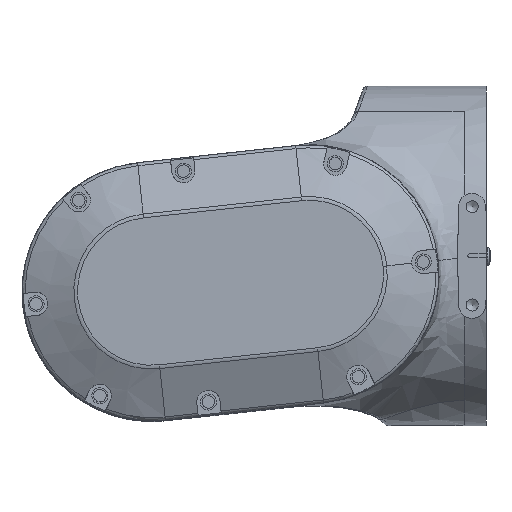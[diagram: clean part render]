
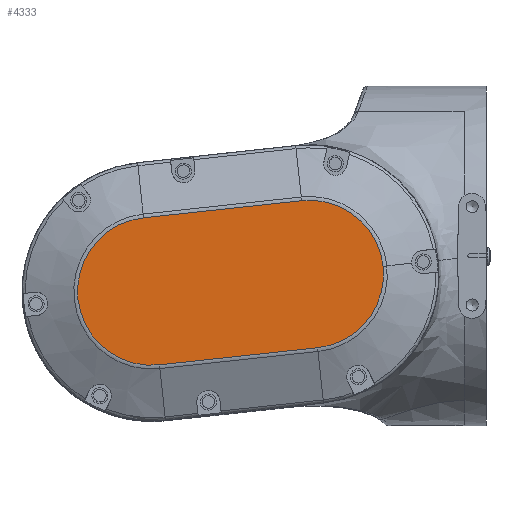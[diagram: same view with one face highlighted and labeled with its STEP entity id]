
A CAD part, top view. The second image highlights one B-rep face of the part: STEP entity #4333.
In plain terms, the highlighted planar face has unit normal (0, 0, 1) as drawn and (0, 1, 0) by its records, which use the part's own axes.
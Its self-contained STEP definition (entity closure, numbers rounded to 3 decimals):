
#20 = CARTESIAN_POINT ( 'NONE',  ( -30.719, 130.99, 310.949 ) ) ;
#26 = VECTOR ( 'NONE', #13561, 1000. ) ;
#165 = CARTESIAN_POINT ( 'NONE',  ( 10.432, 130.99, 306.5 ) ) ;
#289 = DIRECTION ( 'NONE',  ( 0., 1., 0. ) ) ;
#1775 = DIRECTION ( 'NONE',  ( -0.977, 0., 0.214 ) ) ;
#2949 = CARTESIAN_POINT ( 'NONE',  ( -21.151, 130.99, 399.449 ) ) ;
#3055 = DIRECTION ( 'NONE',  ( 0., 1., 0. ) ) ;
#3561 = DIRECTION ( 'NONE',  ( 0., 1., 0. ) ) ;
#3632 = AXIS2_PLACEMENT_3D ( 'NONE', #11240, #3561, #1775 ) ;
#4333 = ADVANCED_FACE ( 'NONE', ( #23195 ), #13395, .T. ) ;
#4478 = EDGE_CURVE ( 'NONE', #23398, #19973, #18297, .T. ) ;
#5454 = LINE ( 'NONE', #24712, #23364 ) ;
#5508 = CARTESIAN_POINT ( 'NONE',  ( -30.719, 130.99, 310.949 ) ) ;
#5599 = CARTESIAN_POINT ( 'NONE',  ( 10.432, 130.99, 306.5 ) ) ;
#5722 = DIRECTION ( 'NONE',  ( -0.977, 0., 0.214 ) ) ;
#7987 = ORIENTED_EDGE ( 'NONE', *, *, #13310, .T. ) ;
#8024 = VERTEX_POINT ( 'NONE', #17989 ) ;
#8968 = CIRCLE ( 'NONE', #11828, 41.391 ) ;
#9655 = CARTESIAN_POINT ( 'NONE',  ( 61.151, 130.99, 390.551 ) ) ;
#10137 = ORIENTED_EDGE ( 'NONE', *, *, #15794, .T. ) ;
#10855 = DIRECTION ( 'NONE',  ( -0.977, 0., 0.214 ) ) ;
#11240 = CARTESIAN_POINT ( 'NONE',  ( 20., 130.99, 395. ) ) ;
#11828 = AXIS2_PLACEMENT_3D ( 'NONE', #12779, #3055, #10855 ) ;
#12103 = EDGE_CURVE ( 'NONE', #21127, #24128, #18786, .T. ) ;
#12779 = CARTESIAN_POINT ( 'NONE',  ( 10.432, 130.99, 306.5 ) ) ;
#13310 = EDGE_CURVE ( 'NONE', #8024, #21127, #8968, .T. ) ;
#13395 = PLANE ( 'NONE',  #13414 ) ;
#13414 = AXIS2_PLACEMENT_3D ( 'NONE', #5599, #17230, #5722 ) ;
#13561 = DIRECTION ( 'NONE',  ( 0.107, 0., 0.994 ) ) ;
#14717 = ORIENTED_EDGE ( 'NONE', *, *, #4478, .T. ) ;
#15794 = EDGE_CURVE ( 'NONE', #24128, #23398, #21830, .T. ) ;
#17230 = DIRECTION ( 'NONE',  ( 0., 1., 0. ) ) ;
#17989 = CARTESIAN_POINT ( 'NONE',  ( 51.583, 130.99, 302.051 ) ) ;
#18297 = CIRCLE ( 'NONE', #3632, 41.391 ) ;
#18786 = CIRCLE ( 'NONE', #23665, 41.391 ) ;
#19667 = EDGE_LOOP ( 'NONE', ( #10137, #14717, #22084, #7987, #24635 ) ) ;
#19807 = DIRECTION ( 'NONE',  ( -0.977, 0., 0.214 ) ) ;
#19973 = VERTEX_POINT ( 'NONE', #9655 ) ;
#21022 = DIRECTION ( 'NONE',  ( -0.107, 0., -0.994 ) ) ;
#21127 = VERTEX_POINT ( 'NONE', #22615 ) ;
#21830 = LINE ( 'NONE', #20, #26 ) ;
#22084 = ORIENTED_EDGE ( 'NONE', *, *, #24611, .T. ) ;
#22615 = CARTESIAN_POINT ( 'NONE',  ( 5.984, 130.99, 265.349 ) ) ;
#23195 = FACE_OUTER_BOUND ( 'NONE', #19667, .T. ) ;
#23364 = VECTOR ( 'NONE', #21022, 1000. ) ;
#23398 = VERTEX_POINT ( 'NONE', #2949 ) ;
#23665 = AXIS2_PLACEMENT_3D ( 'NONE', #165, #289, #19807 ) ;
#24128 = VERTEX_POINT ( 'NONE', #5508 ) ;
#24611 = EDGE_CURVE ( 'NONE', #19973, #8024, #5454, .T. ) ;
#24635 = ORIENTED_EDGE ( 'NONE', *, *, #12103, .T. ) ;
#24712 = CARTESIAN_POINT ( 'NONE',  ( 51.583, 130.99, 302.051 ) ) ;
